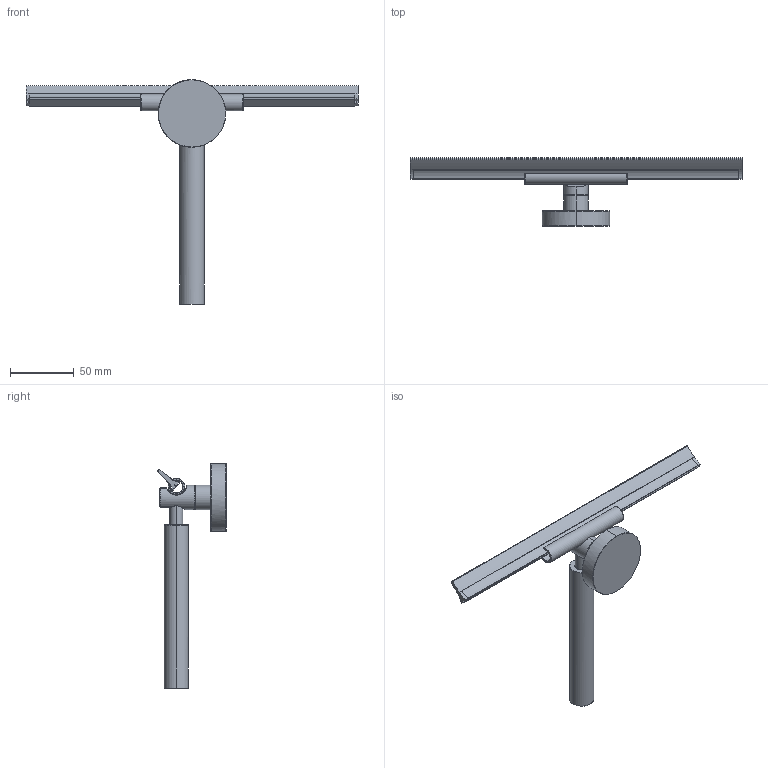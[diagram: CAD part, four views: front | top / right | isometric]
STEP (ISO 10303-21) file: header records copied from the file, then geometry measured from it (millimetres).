
FILE_DESCRIPTION(('THIS FILE CONTAINS SOME STEP INSTANCES'),'1');
FILE_NAME('HAR 046-light.stp','2015-11-18T 9:20:18',('UNDEFINED'),('UNDEFINED'),'T-FLEX CAD STEP converter','T-FLEX CAD','');
FILE_SCHEMA(('CONFIG_CONTROL_DESIGN'));
Length unit declared in the file: metre
Products named in the file (4): 3D 鐨飹懤艜_20; har_036
Bounding box: 260 x 53.51 x 176 mm (x, y, z)
Volume: 94717.7 mm3; surface area: 48634 mm2
Topology: 4 solids, 4 shells, 124 faces, 266 edges, 155 vertices
Faces by surface type: plane 59, cylinder 36, cone 24, bspline 5
Entity records: 5914 total; most frequent: CARTESIAN_POINT 3352, ORIENTED_EDGE 532, DIRECTION 483, EDGE_CURVE 266, AXIS2_PLACEMENT_3D 166, VERTEX_POINT 155, LINE 151, VECTOR 151
